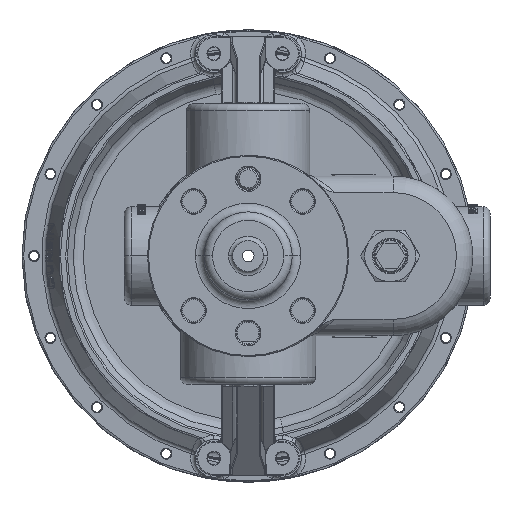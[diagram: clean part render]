
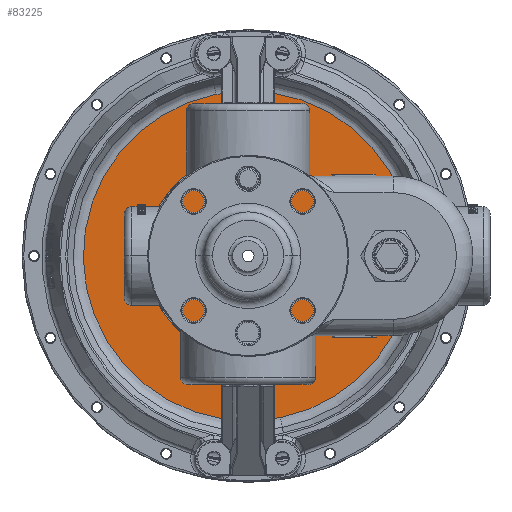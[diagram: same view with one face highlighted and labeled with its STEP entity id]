
A CAD part, front view. The second image highlights one B-rep face of the part: STEP entity #83225.
In plain terms, the highlighted planar face has unit normal (0, -1, 0).
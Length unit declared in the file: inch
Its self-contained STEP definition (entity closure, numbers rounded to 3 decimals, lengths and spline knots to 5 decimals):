
#8623 = DIRECTION ( 'NONE',  ( 0.195, 0., -0.981 ) ) ;
#8660 = DIRECTION ( 'NONE',  ( 0., -1., 0. ) ) ;
#8670 = CARTESIAN_POINT ( 'NONE',  ( 0., 20.279, -0.002 ) ) ;
#8722 = CARTESIAN_POINT ( 'NONE',  ( 0., 20.279, -0.002 ) ) ;
#8725 = DIRECTION ( 'NONE',  ( 0., -1., 0. ) ) ;
#8756 = DIRECTION ( 'NONE',  ( 0.195, 0., -0.981 ) ) ;
#9693 = DIRECTION ( 'NONE',  ( 0., -1., 0. ) ) ;
#9701 = CARTESIAN_POINT ( 'NONE',  ( 0., 20.279, -0.002 ) ) ;
#9703 = DIRECTION ( 'NONE',  ( 0.195, 0., -0.981 ) ) ;
#9768 = DIRECTION ( 'NONE',  ( 0.195, 0., -0.981 ) ) ;
#9780 = DIRECTION ( 'NONE',  ( 0., -1., 0. ) ) ;
#9798 = CARTESIAN_POINT ( 'NONE',  ( 0., 20.279, -0.002 ) ) ;
#10694 = AXIS2_PLACEMENT_3D ( 'NONE', #21534, #21617, #21598 ) ;
#13254 = AXIS2_PLACEMENT_3D ( 'NONE', #8670, #8660, #8623 ) ;
#13294 = AXIS2_PLACEMENT_3D ( 'NONE', #8722, #8725, #8756 ) ;
#13354 = AXIS2_PLACEMENT_3D ( 'NONE', #9798, #9780, #9768 ) ;
#13364 = AXIS2_PLACEMENT_3D ( 'NONE', #9701, #9693, #9703 ) ;
#21534 = CARTESIAN_POINT ( 'NONE',  ( -4.71795, 20.279, -0.94046 ) ) ;
#21563 = PLANE ( 'NONE',  #10694 ) ;
#21598 = DIRECTION ( 'NONE',  ( -0.195, 0., 0.981 ) ) ;
#21617 = DIRECTION ( 'NONE',  ( 0., 1., 0. ) ) ;
#43889 = VERTEX_POINT ( 'NONE', #97925 ) ;
#43897 = VERTEX_POINT ( 'NONE', #97928 ) ;
#43962 = VERTEX_POINT ( 'NONE', #49055 ) ;
#44006 = VERTEX_POINT ( 'NONE', #49214 ) ;
#49055 = CARTESIAN_POINT ( 'NONE',  ( 0.09755, 20.279, -0.49239 ) ) ;
#49214 = CARTESIAN_POINT ( 'NONE',  ( 0.93846, 20.279, -4.71995 ) ) ;
#63393 = EDGE_LOOP ( 'NONE', ( #102936, #102869 ) ) ;
#63404 = EDGE_LOOP ( 'NONE', ( #102976, #102992 ) ) ;
#83225 = ADVANCED_FACE ( 'NONE', ( #101500, #101491 ), #21563, .F. ) ;
#92545 = EDGE_CURVE ( 'NONE', #43889, #43962, #92747, .T. ) ;
#92588 = EDGE_CURVE ( 'NONE', #43897, #44006, #92728, .T. ) ;
#92728 = CIRCLE ( 'NONE', #13294, 4.81038 ) ;
#92747 = CIRCLE ( 'NONE', #13254, 0.5 ) ;
#92821 = EDGE_CURVE ( 'NONE', #44006, #43897, #92934, .T. ) ;
#92843 = EDGE_CURVE ( 'NONE', #43962, #43889, #92955, .T. ) ;
#92934 = CIRCLE ( 'NONE', #13364, 4.81038 ) ;
#92955 = CIRCLE ( 'NONE', #13354, 0.5 ) ;
#97925 = CARTESIAN_POINT ( 'NONE',  ( -0.09755, 20.279, 0.48839 ) ) ;
#97928 = CARTESIAN_POINT ( 'NONE',  ( -0.93846, 20.279, 4.71595 ) ) ;
#101491 = FACE_OUTER_BOUND ( 'NONE', #63393, .T. ) ;
#101500 = FACE_BOUND ( 'NONE', #63404, .T. ) ;
#102869 = ORIENTED_EDGE ( 'NONE', *, *, #92588, .T. ) ;
#102936 = ORIENTED_EDGE ( 'NONE', *, *, #92821, .T. ) ;
#102976 = ORIENTED_EDGE ( 'NONE', *, *, #92843, .F. ) ;
#102992 = ORIENTED_EDGE ( 'NONE', *, *, #92545, .F. ) ;
